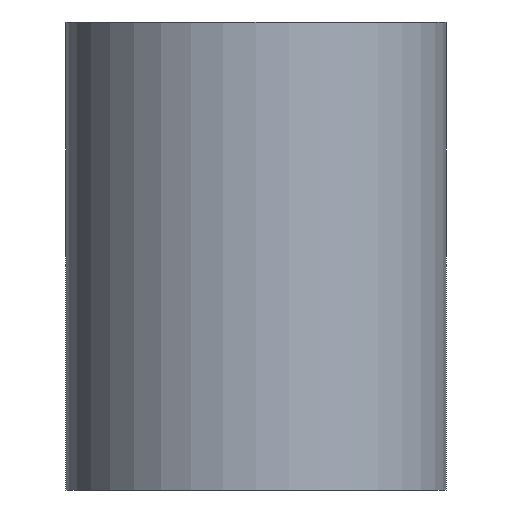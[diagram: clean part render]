
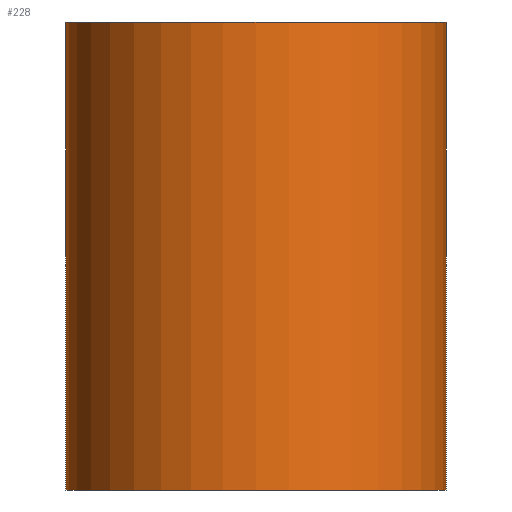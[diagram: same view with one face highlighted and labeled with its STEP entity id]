
A CAD part, left-side view. The second image highlights one B-rep face of the part: STEP entity #228.
In plain terms, the highlighted cylindrical face has radius 5 mm (diameter 10 mm), a partial arc.
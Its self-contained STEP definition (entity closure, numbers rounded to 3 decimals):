
#44 = PLANE('',#45);
#45 = AXIS2_PLACEMENT_3D('',#46,#47,#48);
#46 = CARTESIAN_POINT('',(-62.925,5.,0.));
#47 = DIRECTION('',(0.,1.,0.));
#48 = DIRECTION('',(1.,0.,0.));
#73 = PLANE('',#74);
#74 = AXIS2_PLACEMENT_3D('',#75,#76,#77);
#75 = CARTESIAN_POINT('',(0.,0.,12.3));
#76 = DIRECTION('',(0.,0.,1.));
#77 = DIRECTION('',(1.,0.,-0.));
#105 = PLANE('',#106);
#106 = AXIS2_PLACEMENT_3D('',#107,#108,#109);
#107 = CARTESIAN_POINT('',(0.,-5.,0.));
#108 = DIRECTION('',(0.,1.,0.));
#109 = DIRECTION('',(1.,0.,0.));
#132 = PLANE('',#133);
#133 = AXIS2_PLACEMENT_3D('',#134,#135,#136);
#134 = CARTESIAN_POINT('',(0.,0.,0.));
#135 = DIRECTION('',(0.,0.,1.));
#136 = DIRECTION('',(1.,0.,-0.));
#153 = VERTEX_POINT('',#154);
#154 = CARTESIAN_POINT('',(-62.925,-5.,12.3));
#175 = EDGE_CURVE('',#153,#176,#178,.T.);
#176 = VERTEX_POINT('',#177);
#177 = CARTESIAN_POINT('',(-62.925,5.,12.3));
#178 = SURFACE_CURVE('',#179,(#184,#195),.PCURVE_S1.);
#179 = CIRCLE('',#180,5.);
#180 = AXIS2_PLACEMENT_3D('',#181,#182,#183);
#181 = CARTESIAN_POINT('',(-62.925,0.,12.3));
#182 = DIRECTION('',(0.,0.,-1.));
#183 = DIRECTION('',(1.,0.,0.));
#184 = PCURVE('',#73,#185);
#185 = DEFINITIONAL_REPRESENTATION('',(#186),#194);
#186 = ( BOUNDED_CURVE() B_SPLINE_CURVE(2,(#187,#188,#189,#190,#191,#192
,#193),.UNSPECIFIED.,.T.,.F.) B_SPLINE_CURVE_WITH_KNOTS((1,2,2,2,2,1),(
    -2.094,0.,2.094,4.189,6.283,
8.378),.UNSPECIFIED.) CURVE() GEOMETRIC_REPRESENTATION_ITEM() 
RATIONAL_B_SPLINE_CURVE((1.,0.5,1.,0.5,1.,0.5,1.)) REPRESENTATION_ITEM(
  '') );
#187 = CARTESIAN_POINT('',(-57.925,0.));
#188 = CARTESIAN_POINT('',(-57.925,-8.66));
#189 = CARTESIAN_POINT('',(-65.425,-4.33));
#190 = CARTESIAN_POINT('',(-72.925,0.));
#191 = CARTESIAN_POINT('',(-65.425,4.33));
#192 = CARTESIAN_POINT('',(-57.925,8.66));
#193 = CARTESIAN_POINT('',(-57.925,0.));
#194 = ( GEOMETRIC_REPRESENTATION_CONTEXT(2) 
PARAMETRIC_REPRESENTATION_CONTEXT() REPRESENTATION_CONTEXT('2D SPACE',''
  ) );
#195 = PCURVE('',#196,#201);
#196 = CYLINDRICAL_SURFACE('',#197,5.);
#197 = AXIS2_PLACEMENT_3D('',#198,#199,#200);
#198 = CARTESIAN_POINT('',(-62.925,0.,0.));
#199 = DIRECTION('',(0.,0.,-1.));
#200 = DIRECTION('',(1.,0.,0.));
#201 = DEFINITIONAL_REPRESENTATION('',(#202),#206);
#202 = LINE('',#203,#204);
#203 = CARTESIAN_POINT('',(0.,-12.3));
#204 = VECTOR('',#205,1.);
#205 = DIRECTION('',(1.,0.));
#206 = ( GEOMETRIC_REPRESENTATION_CONTEXT(2) 
PARAMETRIC_REPRESENTATION_CONTEXT() REPRESENTATION_CONTEXT('2D SPACE',''
  ) );
#228 = ADVANCED_FACE('',(#229),#196,.T.);
#229 = FACE_BOUND('',#230,.T.);
#230 = EDGE_LOOP('',(#231,#254,#255,#278));
#231 = ORIENTED_EDGE('',*,*,#232,.T.);
#232 = EDGE_CURVE('',#233,#153,#235,.T.);
#233 = VERTEX_POINT('',#234);
#234 = CARTESIAN_POINT('',(-62.925,-5.,0.));
#235 = SURFACE_CURVE('',#236,(#240,#247),.PCURVE_S1.);
#236 = LINE('',#237,#238);
#237 = CARTESIAN_POINT('',(-62.925,-5.,0.));
#238 = VECTOR('',#239,1.);
#239 = DIRECTION('',(0.,0.,1.));
#240 = PCURVE('',#196,#241);
#241 = DEFINITIONAL_REPRESENTATION('',(#242),#246);
#242 = LINE('',#243,#244);
#243 = CARTESIAN_POINT('',(1.571,0.));
#244 = VECTOR('',#245,1.);
#245 = DIRECTION('',(0.,-1.));
#246 = ( GEOMETRIC_REPRESENTATION_CONTEXT(2) 
PARAMETRIC_REPRESENTATION_CONTEXT() REPRESENTATION_CONTEXT('2D SPACE',''
  ) );
#247 = PCURVE('',#105,#248);
#248 = DEFINITIONAL_REPRESENTATION('',(#249),#253);
#249 = LINE('',#250,#251);
#250 = CARTESIAN_POINT('',(-62.925,0.));
#251 = VECTOR('',#252,1.);
#252 = DIRECTION('',(0.,-1.));
#253 = ( GEOMETRIC_REPRESENTATION_CONTEXT(2) 
PARAMETRIC_REPRESENTATION_CONTEXT() REPRESENTATION_CONTEXT('2D SPACE',''
  ) );
#254 = ORIENTED_EDGE('',*,*,#175,.T.);
#255 = ORIENTED_EDGE('',*,*,#256,.F.);
#256 = EDGE_CURVE('',#257,#176,#259,.T.);
#257 = VERTEX_POINT('',#258);
#258 = CARTESIAN_POINT('',(-62.925,5.,0.));
#259 = SURFACE_CURVE('',#260,(#264,#271),.PCURVE_S1.);
#260 = LINE('',#261,#262);
#261 = CARTESIAN_POINT('',(-62.925,5.,0.));
#262 = VECTOR('',#263,1.);
#263 = DIRECTION('',(0.,0.,1.));
#264 = PCURVE('',#196,#265);
#265 = DEFINITIONAL_REPRESENTATION('',(#266),#270);
#266 = LINE('',#267,#268);
#267 = CARTESIAN_POINT('',(4.712,0.));
#268 = VECTOR('',#269,1.);
#269 = DIRECTION('',(0.,-1.));
#270 = ( GEOMETRIC_REPRESENTATION_CONTEXT(2) 
PARAMETRIC_REPRESENTATION_CONTEXT() REPRESENTATION_CONTEXT('2D SPACE',''
  ) );
#271 = PCURVE('',#44,#272);
#272 = DEFINITIONAL_REPRESENTATION('',(#273),#277);
#273 = LINE('',#274,#275);
#274 = CARTESIAN_POINT('',(0.,0.));
#275 = VECTOR('',#276,1.);
#276 = DIRECTION('',(0.,-1.));
#277 = ( GEOMETRIC_REPRESENTATION_CONTEXT(2) 
PARAMETRIC_REPRESENTATION_CONTEXT() REPRESENTATION_CONTEXT('2D SPACE',''
  ) );
#278 = ORIENTED_EDGE('',*,*,#279,.F.);
#279 = EDGE_CURVE('',#233,#257,#280,.T.);
#280 = SURFACE_CURVE('',#281,(#286,#293),.PCURVE_S1.);
#281 = CIRCLE('',#282,5.);
#282 = AXIS2_PLACEMENT_3D('',#283,#284,#285);
#283 = CARTESIAN_POINT('',(-62.925,0.,0.));
#284 = DIRECTION('',(0.,0.,-1.));
#285 = DIRECTION('',(1.,0.,0.));
#286 = PCURVE('',#196,#287);
#287 = DEFINITIONAL_REPRESENTATION('',(#288),#292);
#288 = LINE('',#289,#290);
#289 = CARTESIAN_POINT('',(0.,0.));
#290 = VECTOR('',#291,1.);
#291 = DIRECTION('',(1.,0.));
#292 = ( GEOMETRIC_REPRESENTATION_CONTEXT(2) 
PARAMETRIC_REPRESENTATION_CONTEXT() REPRESENTATION_CONTEXT('2D SPACE',''
  ) );
#293 = PCURVE('',#132,#294);
#294 = DEFINITIONAL_REPRESENTATION('',(#295),#303);
#295 = ( BOUNDED_CURVE() B_SPLINE_CURVE(2,(#296,#297,#298,#299,#300,#301
,#302),.UNSPECIFIED.,.T.,.F.) B_SPLINE_CURVE_WITH_KNOTS((1,2,2,2,2,1),(
    -2.094,0.,2.094,4.189,6.283,
8.378),.UNSPECIFIED.) CURVE() GEOMETRIC_REPRESENTATION_ITEM() 
RATIONAL_B_SPLINE_CURVE((1.,0.5,1.,0.5,1.,0.5,1.)) REPRESENTATION_ITEM(
  '') );
#296 = CARTESIAN_POINT('',(-57.925,0.));
#297 = CARTESIAN_POINT('',(-57.925,-8.66));
#298 = CARTESIAN_POINT('',(-65.425,-4.33));
#299 = CARTESIAN_POINT('',(-72.925,0.));
#300 = CARTESIAN_POINT('',(-65.425,4.33));
#301 = CARTESIAN_POINT('',(-57.925,8.66));
#302 = CARTESIAN_POINT('',(-57.925,0.));
#303 = ( GEOMETRIC_REPRESENTATION_CONTEXT(2) 
PARAMETRIC_REPRESENTATION_CONTEXT() REPRESENTATION_CONTEXT('2D SPACE',''
  ) );
